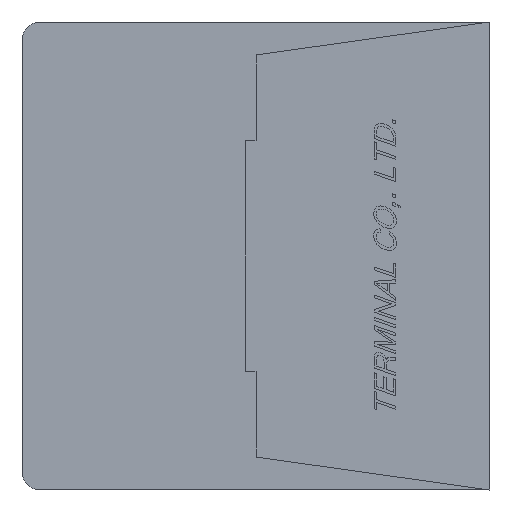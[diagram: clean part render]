
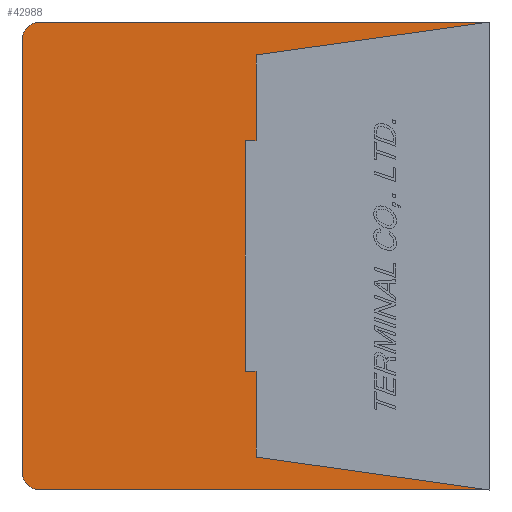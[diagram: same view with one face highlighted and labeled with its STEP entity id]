
A CAD part, left-side view. The second image highlights one B-rep face of the part: STEP entity #42988.
In plain terms, the highlighted planar face has unit normal (-1, 0, 0).
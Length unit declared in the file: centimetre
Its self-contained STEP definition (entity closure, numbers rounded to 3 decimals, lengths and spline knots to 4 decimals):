
#372=CIRCLE('',#73903,0.05);
#373=CIRCLE('',#73904,0.05);
#2692=VERTEX_POINT('',#56843);
#2693=VERTEX_POINT('',#56845);
#2694=VERTEX_POINT('',#56849);
#2695=VERTEX_POINT('',#56853);
#2696=VERTEX_POINT('',#56857);
#2697=VERTEX_POINT('',#56861);
#2698=VERTEX_POINT('',#56865);
#2699=VERTEX_POINT('',#56869);
#2700=VERTEX_POINT('',#56873);
#2701=VERTEX_POINT('',#56875);
#2702=VERTEX_POINT('',#56877);
#2703=VERTEX_POINT('',#56879);
#7192=VECTOR('',#47928,1.);
#7195=VECTOR('',#47932,1.);
#7197=VECTOR('',#47935,1.);
#7199=VECTOR('',#47938,1.);
#7201=VECTOR('',#47941,1.);
#7203=VECTOR('',#47944,1.);
#7205=VECTOR('',#47947,1.);
#7206=VECTOR('',#47949,1.);
#7207=VECTOR('',#47952,1.);
#7208=VECTOR('',#47955,1.);
#12332=LINE('',#56844,#7192);
#12335=LINE('',#56850,#7195);
#12337=LINE('',#56854,#7197);
#12339=LINE('',#56858,#7199);
#12341=LINE('',#56862,#7201);
#12343=LINE('',#56866,#7203);
#12345=LINE('',#56870,#7205);
#12346=LINE('',#56872,#7206);
#12347=LINE('',#56876,#7207);
#12348=LINE('',#56880,#7208);
#17580=EDGE_CURVE('',#2693,#2692,#12332,.T.);
#17583=EDGE_CURVE('',#2692,#2694,#12335,.T.);
#17585=EDGE_CURVE('',#2694,#2695,#12337,.T.);
#17587=EDGE_CURVE('',#2695,#2696,#12339,.T.);
#17589=EDGE_CURVE('',#2696,#2697,#12341,.T.);
#17591=EDGE_CURVE('',#2697,#2698,#12343,.T.);
#17593=EDGE_CURVE('',#2698,#2699,#12345,.T.);
#17594=EDGE_CURVE('',#2699,#2700,#12346,.T.);
#17595=EDGE_CURVE('',#2701,#2700,#372,.T.);
#17596=EDGE_CURVE('',#2701,#2702,#12347,.T.);
#17597=EDGE_CURVE('',#2703,#2702,#373,.T.);
#17598=EDGE_CURVE('',#2703,#2693,#12348,.T.);
#24763=ORIENTED_EDGE('',*,*,#17580,.T.);
#24764=ORIENTED_EDGE('',*,*,#17583,.T.);
#24765=ORIENTED_EDGE('',*,*,#17585,.T.);
#24766=ORIENTED_EDGE('',*,*,#17587,.T.);
#24767=ORIENTED_EDGE('',*,*,#17589,.T.);
#24768=ORIENTED_EDGE('',*,*,#17591,.T.);
#24769=ORIENTED_EDGE('',*,*,#17593,.T.);
#24770=ORIENTED_EDGE('',*,*,#17594,.T.);
#24771=ORIENTED_EDGE('',*,*,#17595,.F.);
#24772=ORIENTED_EDGE('',*,*,#17596,.T.);
#24773=ORIENTED_EDGE('',*,*,#17597,.F.);
#24774=ORIENTED_EDGE('',*,*,#17598,.T.);
#37226=EDGE_LOOP('',(#24763,#24764,#24765,#24766,#24767,#24768,#24769,#24770,
#24771,#24772,#24773,#24774));
#40120=FACE_BOUND('',#37226,.T.);
#42988=ADVANCED_FACE('',(#40120),#45558,.F.);
#45558=PLANE('',#73902);
#47928=DIRECTION('',(0.,0.99,0.139));
#47932=DIRECTION('',(0.,0.,1.));
#47935=DIRECTION('',(0.,1.,0.));
#47938=DIRECTION('',(0.,0.,1.));
#47941=DIRECTION('',(0.,-1.,0.));
#47944=DIRECTION('',(0.,0.,1.));
#47947=DIRECTION('',(0.,-0.99,0.139));
#47948=DIRECTION('',(1.,0.,0.));
#47949=DIRECTION('',(0.,1.,0.));
#47950=DIRECTION('',(1.,0.,0.));
#47951=DIRECTION('',(0.,0.,-0.05));
#47952=DIRECTION('',(0.,0.,-1.));
#47953=DIRECTION('',(1.,0.,0.));
#47954=DIRECTION('',(0.,0.,-0.05));
#47955=DIRECTION('',(0.,-1.,0.));
#56843=CARTESIAN_POINT('',(-0.889,0.64,-0.55));
#56844=CARTESIAN_POINT('',(-0.889,0.5152,-0.5675));
#56845=CARTESIAN_POINT('',(-0.889,0.,-0.64));
#56849=CARTESIAN_POINT('',(-0.889,0.64,-0.315));
#56850=CARTESIAN_POINT('',(-0.889,0.64,-0.2163));
#56853=CARTESIAN_POINT('',(-0.889,0.67,-0.315));
#56854=CARTESIAN_POINT('',(-0.889,0.6447,-0.315));
#56857=CARTESIAN_POINT('',(-0.889,0.67,0.315));
#56858=CARTESIAN_POINT('',(-0.889,0.67,0.));
#56861=CARTESIAN_POINT('',(-0.889,0.64,0.315));
#56862=CARTESIAN_POINT('',(-0.889,0.6447,0.315));
#56865=CARTESIAN_POINT('',(-0.889,0.64,0.55));
#56866=CARTESIAN_POINT('',(-0.889,0.64,0.2162));
#56869=CARTESIAN_POINT('',(-0.889,0.,0.64));
#56870=CARTESIAN_POINT('',(-0.889,0.5152,0.5675));
#56871=CARTESIAN_POINT('',(-0.889,0.6345,0.));
#56872=CARTESIAN_POINT('',(-0.889,0.,0.64));
#56873=CARTESIAN_POINT('',(-0.889,1.23,0.64));
#56874=CARTESIAN_POINT('',(-0.889,1.23,0.59));
#56875=CARTESIAN_POINT('',(-0.889,1.28,0.59));
#56876=CARTESIAN_POINT('',(-0.889,1.28,0.59));
#56877=CARTESIAN_POINT('',(-0.889,1.28,-0.59));
#56878=CARTESIAN_POINT('',(-0.889,1.23,-0.59));
#56879=CARTESIAN_POINT('',(-0.889,1.23,-0.64));
#56880=CARTESIAN_POINT('',(-0.889,1.23,-0.64));
#73902=AXIS2_PLACEMENT_3D('',#56871,#47948,$);
#73903=AXIS2_PLACEMENT_3D('',#56874,#47950,#47951);
#73904=AXIS2_PLACEMENT_3D('',#56878,#47953,#47954);
